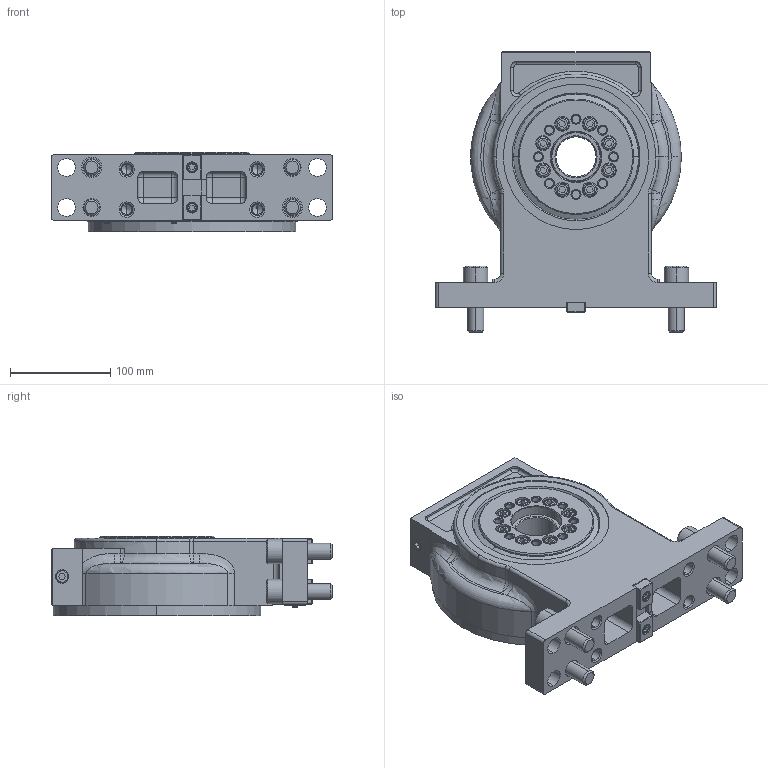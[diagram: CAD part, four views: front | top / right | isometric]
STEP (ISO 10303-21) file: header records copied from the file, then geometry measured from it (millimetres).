
FILE_DESCRIPTION (( 'STEP AP214' ), '1' );
FILE_NAME ('TSRC150.STEP', '2022-05-07T04:43:32', ( '' ), ( '' ), 'SwSTEP 2.0', 'SolidWorks 2020', '' );
FILE_SCHEMA (( 'AUTOMOTIVE_DESIGN' ));
Length unit declared in the file: millimetre
Products named in the file (8): ボデー(61E271509-1)TSRC150; フェースプレート(61E8219001)TSRC140; 0030116050; ネームプレート(61E4732910); TSRC150; シリンダ(61E8219021)TSRC140; TSRC150ホンタイ; ガイドブロック(61M4197783)
Assembly tree (11 placements, depth 3):
  TSRC150
    TSRC150ホンタイ
      ボデー(61E271509-1)TSRC150
      フェースプレート(61E8219001)TSRC140
      シリンダ(61E8219021)TSRC140
      ネームプレート(61E4732910)
      ガイドブロック(61M4197783)  x2
    0030116050  x4
Bounding box: 280 x 280 x 79 mm (x, y, z)
Volume: 3099567.1 mm3; surface area: 344039 mm2
Topology: 10 solids, 12 shells, 2344 faces, 6226 edges, 4025 vertices
Faces by surface type: plane 1747, cylinder 345, cone 190, bspline 28, torus 22, sphere 12
Entity records: 78463 total; most frequent: CARTESIAN_POINT 13844, ORIENTED_EDGE 11888, DIRECTION 11130, EDGE_CURVE 5944, VECTOR 5058, LINE 5058, VERTEX_POINT 3878, AXIS2_PLACEMENT_3D 3036
